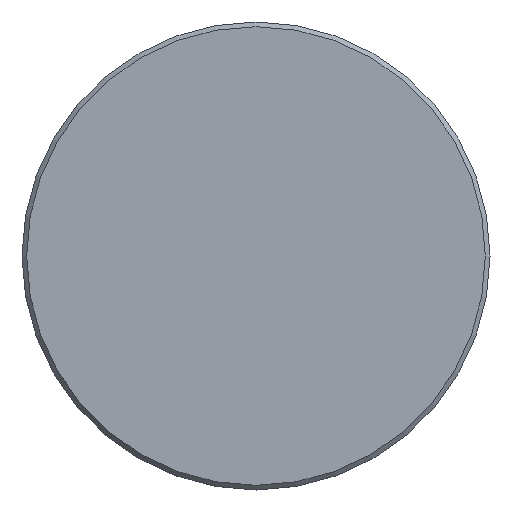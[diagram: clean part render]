
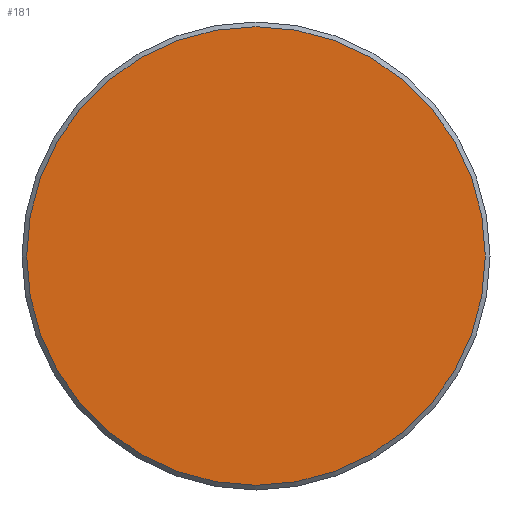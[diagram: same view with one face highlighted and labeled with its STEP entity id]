
A CAD part, front view. The second image highlights one B-rep face of the part: STEP entity #181.
In plain terms, the highlighted planar face has unit normal (0, -1, 0).
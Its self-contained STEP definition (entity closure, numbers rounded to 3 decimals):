
#181 = ADVANCED_FACE( '', ( #363 ), #364, .F. );
#363 = FACE_OUTER_BOUND( '', #563, .T. );
#364 = PLANE( '', #564 );
#563 = EDGE_LOOP( '', ( #836 ) );
#564 = AXIS2_PLACEMENT_3D( '', #837, #838, #839 );
#836 = ORIENTED_EDGE( '', *, *, #1148, .T. );
#837 = CARTESIAN_POINT( '', ( 24.5, 0., 0. ) );
#838 = DIRECTION( '', ( 0., 1., 0. ) );
#839 = DIRECTION( '', ( 0., 0., 1. ) );
#1148 = EDGE_CURVE( '', #1332, #1332, #1333, .T. );
#1332 = VERTEX_POINT( '', #1620 );
#1333 = CIRCLE( '', #1621, 24.5 );
#1620 = CARTESIAN_POINT( '', ( 0., 0., -24.5 ) );
#1621 = AXIS2_PLACEMENT_3D( '', #2038, #2039, #2040 );
#2038 = CARTESIAN_POINT( '', ( 0., 0., 0. ) );
#2039 = DIRECTION( '', ( 0., -1., 0. ) );
#2040 = DIRECTION( '', ( 0., 0., -1. ) );
